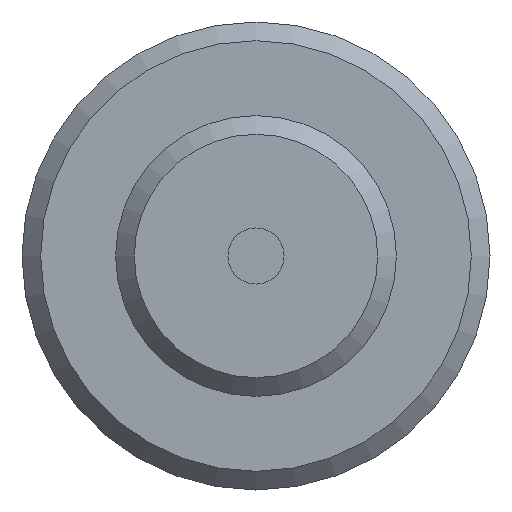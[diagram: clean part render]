
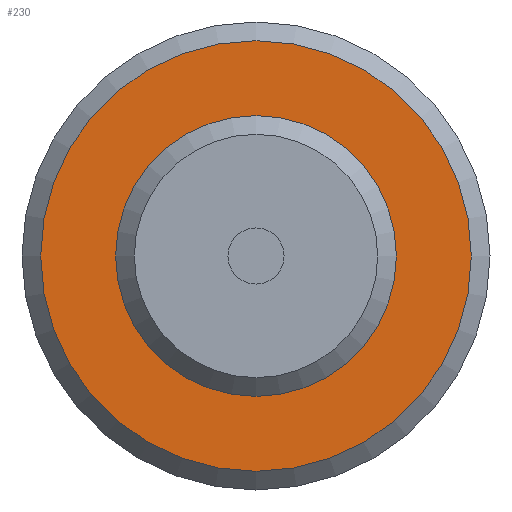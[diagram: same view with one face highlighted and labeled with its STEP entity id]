
A CAD part, front view. The second image highlights one B-rep face of the part: STEP entity #230.
In plain terms, the highlighted planar face has unit normal (0, -1, 0).
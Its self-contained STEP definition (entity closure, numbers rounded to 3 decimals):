
#29=FACE_BOUND('',#68,.T.);
#34=PLANE('',#274);
#47=FACE_OUTER_BOUND('',#67,.T.);
#67=EDGE_LOOP('',(#191));
#68=EDGE_LOOP('',(#192));
#109=CIRCLE('',#273,7.5);
#110=CIRCLE('',#275,11.5);
#126=VERTEX_POINT('',#406);
#127=VERTEX_POINT('',#410);
#148=EDGE_CURVE('',#126,#126,#109,.T.);
#150=EDGE_CURVE('',#127,#127,#110,.T.);
#191=ORIENTED_EDGE('',*,*,#150,.F.);
#192=ORIENTED_EDGE('',*,*,#148,.T.);
#230=ADVANCED_FACE('',(#47,#29),#34,.T.);
#273=AXIS2_PLACEMENT_3D('',#407,#332,#333);
#274=AXIS2_PLACEMENT_3D('',#409,#335,#336);
#275=AXIS2_PLACEMENT_3D('',#411,#337,#338);
#332=DIRECTION('center_axis',(0.,1.,0.));
#333=DIRECTION('ref_axis',(1.,0.,0.));
#335=DIRECTION('center_axis',(0.,-1.,0.));
#336=DIRECTION('ref_axis',(0.,0.,-1.));
#337=DIRECTION('center_axis',(0.,1.,0.));
#338=DIRECTION('ref_axis',(1.,0.,0.));
#406=CARTESIAN_POINT('',(0.,20.,-7.5));
#407=CARTESIAN_POINT('Origin',(0.,20.,0.));
#409=CARTESIAN_POINT('Origin',(0.,20.,11.5));
#410=CARTESIAN_POINT('',(0.,20.,-11.5));
#411=CARTESIAN_POINT('Origin',(0.,20.,0.));
